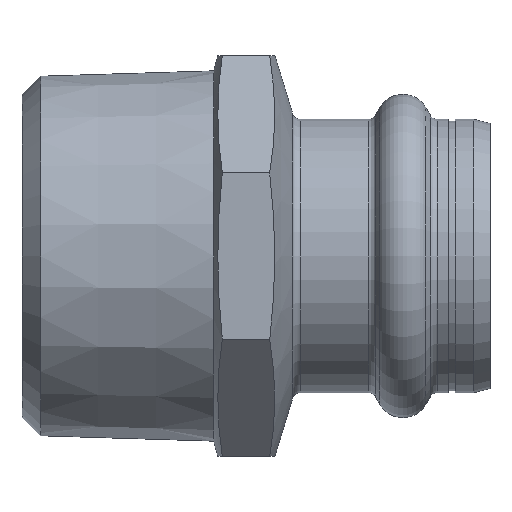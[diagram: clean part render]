
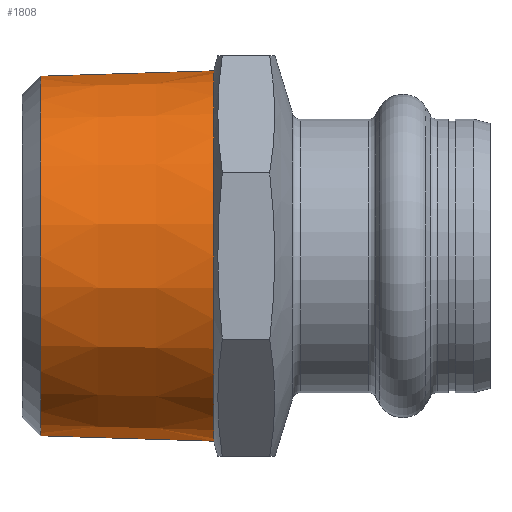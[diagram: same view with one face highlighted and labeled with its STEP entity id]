
A CAD part, left-side view. The second image highlights one B-rep face of the part: STEP entity #1808.
In plain terms, the highlighted conical face has half-angle 1.78 degrees and reference radius 21.244 mm.
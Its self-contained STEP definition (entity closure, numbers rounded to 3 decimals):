
#79 = DIRECTION ( 'NONE',  ( 0., 0., -1. ) ) ;
#105 = DIRECTION ( 'NONE',  ( 0., -1., 0. ) ) ;
#123 = CARTESIAN_POINT ( 'NONE',  ( 0., 31.7, 0. ) ) ;
#129 = CARTESIAN_POINT ( 'NONE',  ( 0., 31.7, 21.244 ) ) ;
#146 = VECTOR ( 'NONE', #665, 1000. ) ;
#149 = DIRECTION ( 'NONE',  ( 0., 0., -1. ) ) ;
#162 = DIRECTION ( 'NONE',  ( 0., -1., 0. ) ) ;
#163 = ORIENTED_EDGE ( 'NONE', *, *, #1588, .F. ) ;
#166 = ORIENTED_EDGE ( 'NONE', *, *, #1115, .F. ) ;
#174 = EDGE_CURVE ( 'NONE', #480, #866, #363, .T. ) ;
#280 = CONICAL_SURFACE ( 'NONE', #1134, 21.244, 0.031 ) ;
#328 = FACE_OUTER_BOUND ( 'NONE', #1315, .T. ) ;
#363 = LINE ( 'NONE', #1010, #1500 ) ;
#480 = VERTEX_POINT ( 'NONE', #1240 ) ;
#530 = ORIENTED_EDGE ( 'NONE', *, *, #1778, .T. ) ;
#583 = DIRECTION ( 'NONE',  ( 0., 0., -1. ) ) ;
#590 = CARTESIAN_POINT ( 'NONE',  ( 0., 51.574, 0. ) ) ;
#594 = CIRCLE ( 'NONE', #1547, 21.244 ) ;
#665 = DIRECTION ( 'NONE',  ( 0., -1., 0.031 ) ) ;
#736 = CARTESIAN_POINT ( 'NONE',  ( 0., 31.7, 0. ) ) ;
#866 = VERTEX_POINT ( 'NONE', #1503 ) ;
#902 = CARTESIAN_POINT ( 'NONE',  ( 0., 51.574, 20.626 ) ) ;
#1010 = CARTESIAN_POINT ( 'NONE',  ( 0., 31.7, -21.244 ) ) ;
#1024 = AXIS2_PLACEMENT_3D ( 'NONE', #590, #162, #149 ) ;
#1115 = EDGE_CURVE ( 'NONE', #1849, #1396, #1317, .T. ) ;
#1134 = AXIS2_PLACEMENT_3D ( 'NONE', #736, #1639, #583 ) ;
#1180 = CIRCLE ( 'NONE', #1024, 20.626 ) ;
#1240 = CARTESIAN_POINT ( 'NONE',  ( 0., 51.574, -20.626 ) ) ;
#1303 = DIRECTION ( 'NONE',  ( 0., -1., -0.031 ) ) ;
#1315 = EDGE_LOOP ( 'NONE', ( #166, #530, #1444, #163 ) ) ;
#1317 = LINE ( 'NONE', #1680, #146 ) ;
#1396 = VERTEX_POINT ( 'NONE', #129 ) ;
#1444 = ORIENTED_EDGE ( 'NONE', *, *, #174, .T. ) ;
#1500 = VECTOR ( 'NONE', #1303, 1000. ) ;
#1503 = CARTESIAN_POINT ( 'NONE',  ( 0., 31.7, -21.244 ) ) ;
#1547 = AXIS2_PLACEMENT_3D ( 'NONE', #123, #105, #79 ) ;
#1588 = EDGE_CURVE ( 'NONE', #1396, #866, #594, .T. ) ;
#1639 = DIRECTION ( 'NONE',  ( 0., -1., 0. ) ) ;
#1680 = CARTESIAN_POINT ( 'NONE',  ( 0., 31.7, 21.244 ) ) ;
#1778 = EDGE_CURVE ( 'NONE', #1849, #480, #1180, .T. ) ;
#1808 = ADVANCED_FACE ( 'NONE', ( #328 ), #280, .T. ) ;
#1849 = VERTEX_POINT ( 'NONE', #902 ) ;
